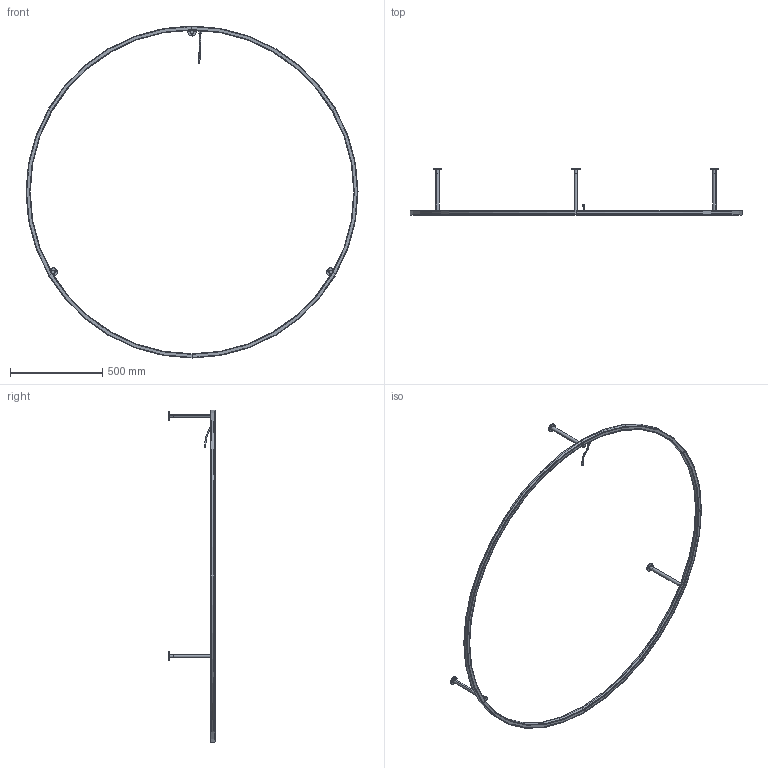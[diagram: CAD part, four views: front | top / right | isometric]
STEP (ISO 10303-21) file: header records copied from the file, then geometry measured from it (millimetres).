
FILE_DESCRIPTION (( 'STEP AP203' ), '1' );
FILE_NAME ('PLUL2180LED-PER 3D.STEP', '2024-05-28T17:05:33', ( '' ), ( '' ), 'SwSTEP 2.0', 'SolidWorks 2024', '' );
FILE_SCHEMA (( 'CONFIG_CONTROL_DESIGN' ));
Length unit declared in the file: millimetre
Products named in the file (11): WSA5068-03-6-0-11-; PLUL2180LED-PER 3D; PLULA180LEDANXX; ASSIEME ANELLO 180 MODULI LED; WSCP2F0011-0403-00; WSCM2D0032-0700-00; WSCM2A0030-0700-01; ACPLULA250XXXXX; WSCM2A0029-0700-01; WSCM2A0022-0700-00; TANG YAO-7727-P415 + RIV TESSILE 33- PER ANELLI
Assembly tree (17 placements, depth 4):
  PLUL2180LED-PER 3D
    PLULA180LEDANXX
      ASSIEME ANELLO 180 MODULI LED
        WSCM2D0032-0700-00
        WSCP2F0011-0403-00  x6
        WSCM2A0022-0700-00
      WSA5068-03-6-0-11-
    ACPLULA250XXXXX  x3
      WSCM2A0030-0700-01
      WSCM2A0029-0700-01
    TANG YAO-7727-P415 + RIV TESSILE 33- PER ANELLI
Bounding box: 1800 x 251.5 x 1800 mm (x, y, z)
Volume: 1789850.7 mm3; surface area: 1151653.5 mm2
Topology: 16 solids, 16 shells, 493 faces, 1136 edges, 686 vertices
Faces by surface type: cylinder 152, plane 126, cone 121, torus 74, bspline 20
Entity records: 17517 total; most frequent: CARTESIAN_POINT 9450, DIRECTION 1495, ORIENTED_EDGE 1358, EDGE_CURVE 679, AXIS2_PLACEMENT_3D 646, VERTEX_POINT 410, CIRCLE 345, EDGE_LOOP 329
